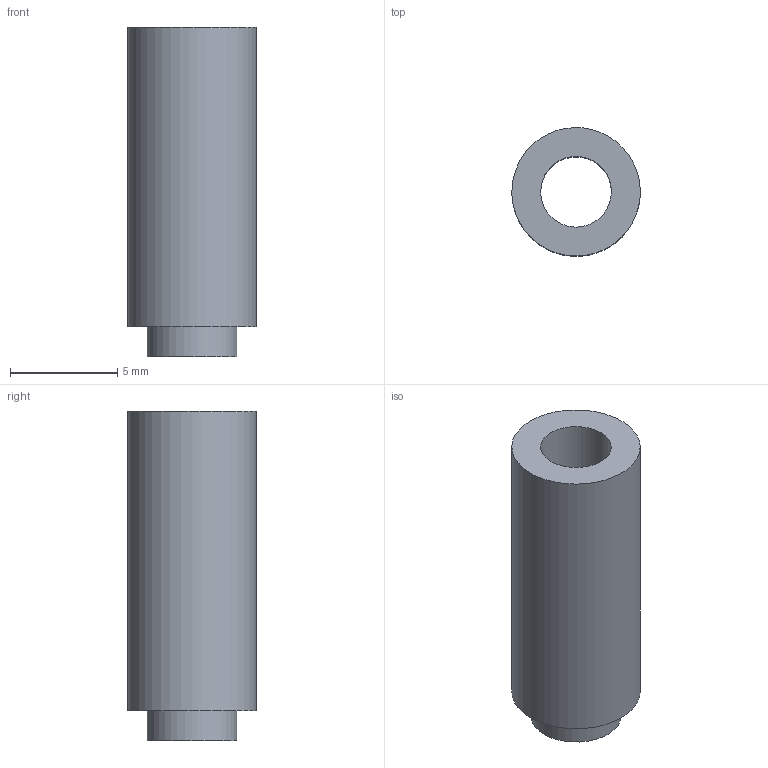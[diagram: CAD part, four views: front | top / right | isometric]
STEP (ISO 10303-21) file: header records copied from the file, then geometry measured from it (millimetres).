
FILE_DESCRIPTION(('FreeCAD Model'),'2;1');
FILE_NAME('Open CASCADE Shape Model','2026-03-20T17:23:29',('Author'),( ''),'Open CASCADE STEP processor 7.8','FreeCAD','Unknown');
FILE_SCHEMA(('AP242_MANAGED_MODEL_BASED_3D_ENGINEERING_MIM_LF. {1 0 10303 442 1 1 4 }'));
Length unit declared in the file: millimetre
Products named in the file (1): 1_transformed
Bounding box: 6 x 6 x 15.4 mm (x, y, z)
Volume: 285.9 mm3; surface area: 482.6 mm2
Topology: 1 solids, 1 shells, 6 faces, 9 edges, 6 vertices
Faces by surface type: bspline 6
Entity records: 201 total; most frequent: CARTESIAN_POINT 109, ORIENTED_EDGE 18, FACE_BOUND 9, EDGE_LOOP 9, EDGE_CURVE 9, ADVANCED_FACE 6, VERTEX_POINT 6, B_SPLINE_SURFACE_WITH_KNOTS 3
